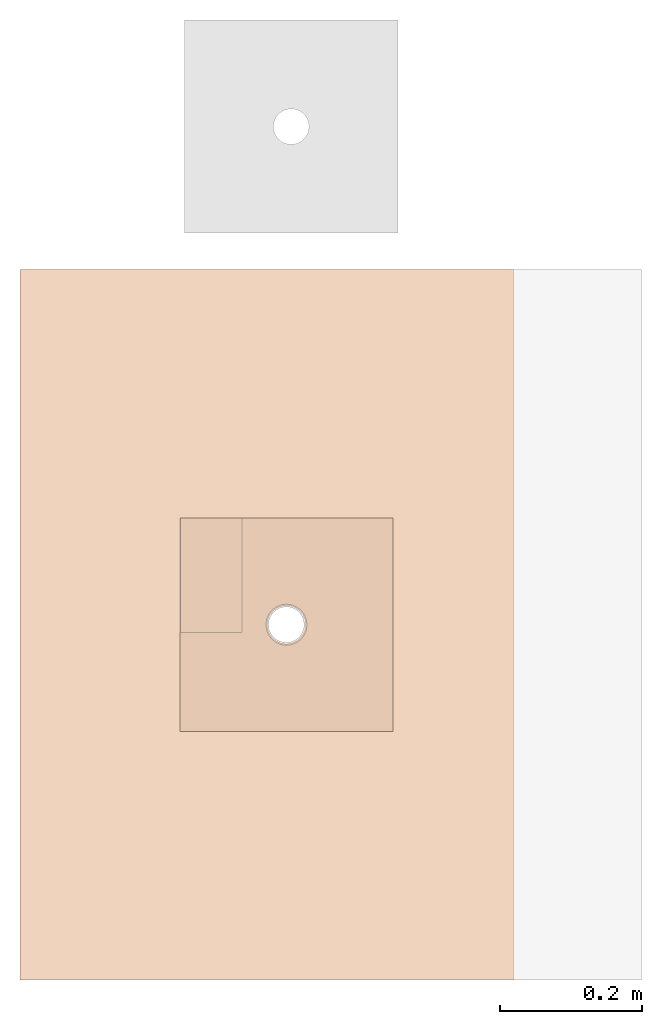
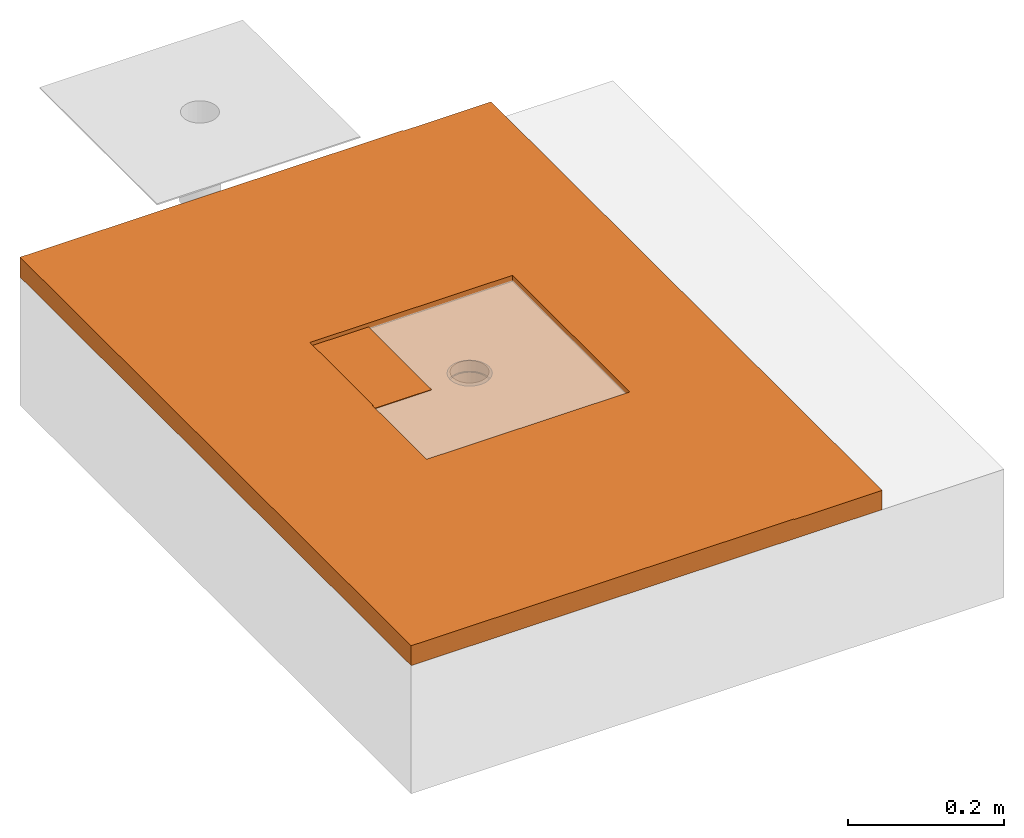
# One storey, part 3 of 3: 1 proxy.
"""IFC2X3 building model written with IfcOpenShell, lengths in metres."""

import ifcopenshell
import ifcopenshell.guid

model = None  # the IFC model being written
_history = None  # IfcOwnerHistory: only IFC2X3 demands one
_inside = {}  # id of a spatial element -> (the spatial element, [elements in it])
_under = {}  # id of a project, library or spatial element -> (it, [spatial elements below it])
_declared = {}  # id of a project -> (the project, [libraries it declares])
_typed = {}  # id of a type object -> (the type object, [elements of that type])
_made_of = {}  # id of a material, layer set ... -> (it, [elements and type objects made of it])


def new_model(schema):
    """Start an empty IFC model of exactly this schema.

    Asked for "IFC4X3", IfcOpenShell would pick the latest addendum, in which some entities
    have other attributes; the version numbers below select the first issue.
    IFC2X3 requires an IfcOwnerHistory on every rooted entity: one is made here for all.
    """
    global model, _history
    if schema == "IFC4X3":
        model = ifcopenshell.file(schema_version=(4, 3, 0, 0))
    else:
        model = ifcopenshell.file(schema=schema)
    _inside.clear()
    _under.clear()
    _declared.clear()
    _typed.clear()
    _made_of.clear()
    _history = None
    if model.schema == "IFC2X3":
        org = make("IfcOrganization", Name="unknown")
        user = make(
            "IfcPersonAndOrganization",
            ThePerson=make("IfcPerson", FamilyName="unknown"),
            TheOrganization=org,
        )
        app = make(
            "IfcApplication",
            ApplicationDeveloper=org,
            Version="unknown",
            ApplicationFullName="unknown",
            ApplicationIdentifier="unknown",
        )
        _history = make(
            "IfcOwnerHistory",
            OwningUser=user,
            OwningApplication=app,
            ChangeAction="ADDED",
            CreationDate=0,
        )
    return model


def make(cls, **values):
    """One entity of the class cls with the attributes given. An attribute that is None is left unset."""
    return model.create_entity(
        cls, **{name: value for name, value in values.items() if value is not None}
    )


def entity(cls, *values):
    """Any entity or typed value of the class cls, its attributes in the order of the schema. None: left unset."""
    e = model.create_entity(cls)
    for i, value in enumerate(values):
        if value is not None:
            e[i] = value
    return e


def rooted(cls, **values):
    """An entity with a GlobalId (a new one), such as an element, a storey or a relation."""
    return make(cls, GlobalId=ifcopenshell.guid.new(), OwnerHistory=_history, **values)


def si_unit(unit_type, name, prefix=None):
    """IfcSIUnit, for example si_unit("LENGTHUNIT", "METRE", prefix="MILLI")."""
    return make("IfcSIUnit", UnitType=unit_type, Prefix=prefix, Name=name)


def converted_unit(unit_type, name, factor, base, dimensions=None, offset=None):
    """IfcConversionBasedUnit, such as the inch: factor (a typed value) times the base unit."""
    return make(
        "IfcConversionBasedUnit"
        if offset is None
        else "IfcConversionBasedUnitWithOffset",
        ConversionOffset=offset,
        Dimensions=None
        if dimensions is None
        else entity("IfcDimensionalExponents", *dimensions),
        UnitType=unit_type,
        Name=name,
        ConversionFactor=make(
            "IfcMeasureWithUnit", ValueComponent=factor, UnitComponent=base
        ),
    )


def derived_unit(unit_type, elements):
    """IfcDerivedUnit: a product of units, each with its exponent."""
    return make(
        "IfcDerivedUnit",
        Elements=[
            make("IfcDerivedUnitElement", Unit=unit, Exponent=power)
            for unit, power in elements
        ],
        UnitType=unit_type,
    )


def assignment(units):
    """IfcUnitAssignment: the units of a project."""
    return None if units is None else make("IfcUnitAssignment", Units=units)


def point(xyz):
    """IfcCartesianPoint."""
    return None if xyz is None else make("IfcCartesianPoint", Coordinates=xyz)


def direction(xyz):
    """IfcDirection."""
    return None if xyz is None else make("IfcDirection", DirectionRatios=xyz)


def frame(location, z_axis=None, x_axis=None):
    """IfcAxis2Placement3D, a coordinate frame: its origin and axes. An axis left out is left unset."""
    return make(
        "IfcAxis2Placement3D",
        Location=point(location),
        Axis=direction(z_axis),
        RefDirection=direction(x_axis),
    )


def origin():
    """The frame at (0, 0, 0) with its axes left unset."""
    return frame((0.0, 0.0, 0.0))


def place(relative_to, where):
    """IfcLocalPlacement: puts the frame where relative to a parent placement (None: the world)."""
    return make(
        "IfcLocalPlacement", PlacementRelTo=relative_to, RelativePlacement=where
    )


def context(
    kind, dimensions, precision=None, world=None, true_north=None, identifier=None
):
    """IfcGeometricRepresentationContext, for example the 3D "Model" context."""
    return make(
        "IfcGeometricRepresentationContext",
        ContextIdentifier=identifier,
        ContextType=kind,
        CoordinateSpaceDimension=dimensions,
        Precision=precision,
        WorldCoordinateSystem=world,
        TrueNorth=true_north,
    )


def subcontext(parent, identifier, kind, view, scale=None):
    """IfcGeometricRepresentationSubContext, for example "Body" below "Model"."""
    return make(
        "IfcGeometricRepresentationSubContext",
        ContextIdentifier=identifier,
        ContextType=kind,
        ParentContext=parent,
        TargetScale=scale,
        TargetView=view,
    )


def project(units=None, contexts=None):
    """IfcProject with its units and contexts."""
    return rooted(
        "IfcProject",
        Name="project",
        RepresentationContexts=contexts,
        UnitsInContext=assignment(units),
    )


def spatial(cls, under=None, at=None, **own):
    """A site, building, storey or space (cls), placed at a placement, below another one or the project."""
    s = rooted(cls, ObjectPlacement=at, **own)
    if under is not None:
        _under.setdefault(under.id(), (under, []))[1].append(s)
    return s


def faces_of(points, faces, orient=None, outer=None):
    """IfcFace entities. A face is a list of loops; a loop is a list of indices into points, from 0.

    orient and outer hold one flag for each loop. By default every Orientation is true, the
    first loop of a face is its IfcFaceOuterBound and the others are IfcFaceBound.
    """
    made = []
    for i, loops in enumerate(faces):
        bounds = []
        for j, loop in enumerate(loops):
            is_outer = j == 0 if outer is None else outer[i][j]
            bounds.append(
                make(
                    "IfcFaceOuterBound" if is_outer else "IfcFaceBound",
                    Bound=make("IfcPolyLoop", Polygon=[points[k] for k in loop]),
                    Orientation=True if orient is None else orient[i][j],
                )
            )
        made.append(make("IfcFace", Bounds=bounds))
    return made


def faceted_brep(points, faces, orient=None, outer=None, voids=None):
    """IfcFacetedBrep: a solid bounded by flat faces; with voids (closed shells), ...WithVoids."""
    shared = [point(p) for p in points]
    hull = make("IfcClosedShell", CfsFaces=faces_of(shared, faces, orient, outer))
    if voids is None:
        return make("IfcFacetedBrep", Outer=hull)
    return make(
        "IfcFacetedBrepWithVoids",
        Outer=hull,
        Voids=[
            make(cls, CfsFaces=faces_of(shared, fs, o, b)) for cls, fs, o, b in voids
        ],
    )


def shape(context_of_items, identifier, shape_type, items):
    """IfcShapeRepresentation: the items that make up one representation, for example the "Body"."""
    return make(
        "IfcShapeRepresentation",
        ContextOfItems=context_of_items,
        RepresentationIdentifier=identifier,
        RepresentationType=shape_type,
        Items=items,
    )


def source(mapping_origin, context_of_items, identifier, shape_type, items):
    """IfcRepresentationMap: a shape defined once, which mapped items show again and again."""
    return make(
        "IfcRepresentationMap",
        MappingOrigin=mapping_origin,
        MappedRepresentation=shape(context_of_items, identifier, shape_type, items),
    )


def transform(
    local_origin,
    x_axis=None,
    y_axis=None,
    z_axis=None,
    scale=None,
    scale2=None,
    scale3=None,
    uniform=True,
):
    """IfcCartesianTransformationOperator3D, or its non-uniform kind. x_axis, y_axis, z_axis: its Axis1, 2, 3."""
    if uniform:
        return make(
            "IfcCartesianTransformationOperator3D",
            Axis1=direction(x_axis),
            Axis2=direction(y_axis),
            LocalOrigin=point(local_origin),
            Scale=scale,
            Axis3=direction(z_axis),
        )
    return make(
        "IfcCartesianTransformationOperator3DnonUniform",
        Axis1=direction(x_axis),
        Axis2=direction(y_axis),
        LocalOrigin=point(local_origin),
        Scale=scale,
        Axis3=direction(z_axis),
        Scale2=scale2,
        Scale3=scale3,
    )


def mapped(mapping_source, mapping_target):
    """IfcMappedItem: shows the shape of a source again, moved by a transform."""
    return make(
        "IfcMappedItem", MappingSource=mapping_source, MappingTarget=mapping_target
    )


def material(Name=None, Category=None):
    """IfcMaterial."""
    return make("IfcMaterial", Name=Name, Category=Category)


def material_list(materials):
    """IfcMaterialList."""
    return make("IfcMaterialList", Materials=materials)


def made_of(thing, what):
    """Note that an element or type object is made of a material, layer set ...; save() writes the relation."""
    if what is not None:
        _made_of.setdefault(what.id(), (what, []))[1].append(thing)
    return thing


def type_object(cls, material=None, **own):
    """A type object (cls), such as IfcWallType, which elements share."""
    return made_of(rooted(cls, **own), material)


def type_shapes(of_type, sources):
    """Give a type object the sources (RepresentationMaps) that its elements show as mapped items."""
    of_type.RepresentationMaps = sources


def element(
    cls,
    number,
    at=None,
    inside=None,
    cuts=None,
    type_object=None,
    material=None,
    context=None,
    identifier="Body",
    shape_type=None,
    held_by="IfcProductDefinitionShape",
    body=None,
    shapes=None,
    **own,
):
    """One element of the class cls, such as IfcWall. Its Tag is "e" and its number.

    at: its placement. inside: the storey or other place that contains it. cuts: it is an
    opening in that element (IfcRelVoidsElement). A single representation is given by context,
    identifier, shape_type and body (its items); several are given by shapes. held_by: the class
    of the entity that holds the representations. save() writes the other relations.
    """
    e = rooted(cls, Tag="e%d" % number, ObjectPlacement=at, **own)
    if body is not None:
        shapes = [shape(context, identifier, shape_type, body)]
    if shapes is not None:
        e.Representation = make(held_by, Representations=shapes)
    if inside is not None:
        _inside.setdefault(inside.id(), (inside, []))[1].append(e)
    if cuts is not None:
        rooted(
            "IfcRelVoidsElement", RelatingBuildingElement=cuts, RelatedOpeningElement=e
        )
    if type_object is not None:
        _typed.setdefault(type_object.id(), (type_object, []))[1].append(e)
    return made_of(e, material)


def aggregate(whole, parts):
    """IfcRelAggregates: a whole, such as a stair, and the parts it consists of."""
    return rooted("IfcRelAggregates", RelatingObject=whole, RelatedObjects=parts)


def save(model, path):
    """Write the relations noted so far, then the file.

    IfcRelAggregates (storeys below a building ...), IfcRelContainedInSpatialStructure (elements
    in a storey), IfcRelDefinesByType, IfcRelAssociatesMaterial and IfcRelDeclares: one each for
    every whole, place, type object, material and project.
    """
    for whole, parts in _under.values():
        aggregate(whole, parts)
    for where, things in _inside.values():
        rooted(
            "IfcRelContainedInSpatialStructure",
            RelatedElements=things,
            RelatingStructure=where,
        )
    for kind, things in _typed.values():
        rooted("IfcRelDefinesByType", RelatedObjects=things, RelatingType=kind)
    for what, things in _made_of.values():
        rooted("IfcRelAssociatesMaterial", RelatedObjects=things, RelatingMaterial=what)
    for by, libraries in _declared.values():
        rooted("IfcRelDeclares", RelatingContext=by, RelatedDefinitions=libraries)
    model.write(path)


model = new_model("IFC2X3")

# Units and contexts
model_context = context("Model", 3, precision=1e-05, world=origin(), true_north=direction((6.123031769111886e-17, 1.0)))
body_context = subcontext(model_context, "Body", "Model", "MODEL_VIEW")
ifc_project = project(units=[si_unit("LENGTHUNIT", "METRE"), si_unit("AREAUNIT", "SQUARE_METRE"), si_unit("VOLUMEUNIT", "CUBIC_METRE"), converted_unit("PLANEANGLEUNIT", "DEGREE", entity("IfcRatioMeasure", 0.017453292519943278), si_unit("PLANEANGLEUNIT", "RADIAN"), dimensions=[0, 0, 0, 0, 0, 0, 0]), si_unit("MASSUNIT", "GRAM", prefix="KILO"), derived_unit("MASSDENSITYUNIT", [(si_unit("MASSUNIT", "GRAM", prefix="KILO"), 1), (si_unit("LENGTHUNIT", "METRE"), -3)]), derived_unit("IONCONCENTRATIONUNIT", [(si_unit("MASSUNIT", "GRAM", prefix="KILO"), 1), (si_unit("LENGTHUNIT", "METRE"), -3)]), derived_unit("MOMENTOFINERTIAUNIT", [(si_unit("LENGTHUNIT", "METRE"), 4)]), si_unit("TIMEUNIT", "SECOND"), si_unit("FREQUENCYUNIT", "HERTZ"), si_unit("THERMODYNAMICTEMPERATUREUNIT", "DEGREE_CELSIUS"), derived_unit("THERMALTRANSMITTANCEUNIT", [(si_unit("MASSUNIT", "GRAM", prefix="KILO"), 1), (si_unit("THERMODYNAMICTEMPERATUREUNIT", "KELVIN"), -1), (si_unit("TIMEUNIT", "SECOND"), -3)]), derived_unit("THERMALCONDUCTANCEUNIT", [(si_unit("MASSUNIT", "GRAM", prefix="KILO"), 1), (si_unit("THERMODYNAMICTEMPERATUREUNIT", "KELVIN"), -1), (si_unit("TIMEUNIT", "SECOND"), -3), (si_unit("LENGTHUNIT", "METRE"), 1)]), derived_unit("VOLUMETRICFLOWRATEUNIT", [(si_unit("LENGTHUNIT", "METRE"), 3), (si_unit("TIMEUNIT", "SECOND"), -1)]), derived_unit("MASSFLOWRATEUNIT", [(si_unit("MASSUNIT", "GRAM", prefix="KILO"), 1), (si_unit("TIMEUNIT", "SECOND"), -1)]), derived_unit("ROTATIONALFREQUENCYUNIT", [(si_unit("TIMEUNIT", "SECOND"), -1)]), si_unit("ELECTRICCURRENTUNIT", "AMPERE"), si_unit("ELECTRICVOLTAGEUNIT", "VOLT"), si_unit("POWERUNIT", "WATT"), si_unit("FORCEUNIT", "NEWTON", prefix="KILO"), si_unit("ILLUMINANCEUNIT", "LUX"), si_unit("LUMINOUSFLUXUNIT", "LUMEN"), si_unit("LUMINOUSINTENSITYUNIT", "CANDELA"), derived_unit("USERDEFINED", [(si_unit("MASSUNIT", "GRAM", prefix="KILO"), -1), (si_unit("LENGTHUNIT", "METRE"), -2), (si_unit("TIMEUNIT", "SECOND"), 3), (si_unit("LUMINOUSFLUXUNIT", "LUMEN"), 1)]), derived_unit("USERDEFINED", [(si_unit("MASSUNIT", "GRAM", prefix="KILO"), 1), (si_unit("TIMEUNIT", "SECOND"), -3), (si_unit("LENGTHUNIT", "METRE"), 3), (si_unit("ELECTRICCURRENTUNIT", "AMPERE"), -2)]), derived_unit("SOUNDPOWERUNIT", [(si_unit("MASSUNIT", "GRAM", prefix="KILO"), 1), (si_unit("TIMEUNIT", "SECOND"), -3), (si_unit("LENGTHUNIT", "METRE"), 2)]), derived_unit("SOUNDPRESSUREUNIT", [(si_unit("MASSUNIT", "GRAM", prefix="KILO"), 1), (si_unit("LENGTHUNIT", "METRE"), -1), (si_unit("TIMEUNIT", "SECOND"), -2)]), derived_unit("LINEARVELOCITYUNIT", [(si_unit("LENGTHUNIT", "METRE"), 1), (si_unit("TIMEUNIT", "SECOND"), -1)]), si_unit("PRESSUREUNIT", "PASCAL"), derived_unit("USERDEFINED", [(si_unit("MASSUNIT", "GRAM", prefix="KILO"), 1), (si_unit("LENGTHUNIT", "METRE"), -2), (si_unit("TIMEUNIT", "SECOND"), -2)]), derived_unit("LINEARFORCEUNIT", [(si_unit("MASSUNIT", "GRAM", prefix="KILO"), 1), (si_unit("TIMEUNIT", "SECOND"), -2)]), derived_unit("PLANARFORCEUNIT", [(si_unit("MASSUNIT", "GRAM", prefix="KILO"), 1), (si_unit("LENGTHUNIT", "METRE"), -1), (si_unit("TIMEUNIT", "SECOND"), -2)]), derived_unit("SPECIFICHEATCAPACITYUNIT", [(si_unit("THERMODYNAMICTEMPERATUREUNIT", "KELVIN"), -1), (si_unit("LENGTHUNIT", "METRE"), 2), (si_unit("TIMEUNIT", "SECOND"), -2)]), derived_unit("HEATINGVALUEUNIT", [(si_unit("LENGTHUNIT", "METRE"), 2), (si_unit("TIMEUNIT", "SECOND"), -2)]), derived_unit("VAPORPERMEABILITYUNIT", [(si_unit("LENGTHUNIT", "METRE"), -1), (si_unit("TIMEUNIT", "SECOND"), 1)]), derived_unit("DYNAMICVISCOSITYUNIT", [(si_unit("MASSUNIT", "GRAM", prefix="KILO"), 1), (si_unit("TIMEUNIT", "SECOND"), -1), (si_unit("LENGTHUNIT", "METRE"), -1)]), derived_unit("THERMALEXPANSIONCOEFFICIENTUNIT", [(si_unit("THERMODYNAMICTEMPERATUREUNIT", "KELVIN"), -1)]), derived_unit("MODULUSOFELASTICITYUNIT", [(si_unit("MASSUNIT", "GRAM", prefix="KILO"), 1), (si_unit("LENGTHUNIT", "METRE"), -1), (si_unit("TIMEUNIT", "SECOND"), -2)]), derived_unit("ISOTHERMALMOISTURECAPACITYUNIT", [(si_unit("LENGTHUNIT", "METRE"), 3), (si_unit("MASSUNIT", "GRAM", prefix="KILO"), -1)]), derived_unit("MOISTUREDIFFUSIVITYUNIT", [(si_unit("TIMEUNIT", "SECOND"), -1), (si_unit("LENGTHUNIT", "METRE"), 2)])], contexts=[model_context])

# Site, building, storey
site_placement = place(None, origin())
site = spatial("IfcSite", under=ifc_project, at=site_placement, Name="Default", CompositionType="ELEMENT")
building_placement = place(site_placement, origin())
building = spatial("IfcBuilding", under=site, at=building_placement, CompositionType="ELEMENT")
storey_placement = place(building_placement, frame((0.0, 0.0, -0.0025237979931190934)))
storey = spatial("IfcBuildingStorey", under=building, at=storey_placement, Name="ARQ Térreo", CompositionType="ELEMENT", Elevation=-0.0025237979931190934)

# Proxy
ifc_material_1 = material(Name="#Impermeabilização")
ifc_material_2 = material(Name="Plástico")
ifc_material_3 = material(Name="#argamassa")
ifc_material_list = material_list([ifc_material_1, ifc_material_2, ifc_material_3])
building_element_proxy_type = type_object("IfcBuildingElementProxyType", Name="IMPER:IMPER", PredefinedType="NOTDEFINED", material=ifc_material_list)
shared_shape = source(origin(), body_context, "Body", "Brep", [
    faceted_brep([(0.2258540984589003, 0.48897795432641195, 0.3694349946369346), (0.22485409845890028, 0.48897795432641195, 0.3694349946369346), (0.22485409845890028, 0.48897795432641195, 0.3624128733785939), (0.31235992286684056, 0.48897795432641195, 0.3624128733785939), (0.31235992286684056, 0.48897795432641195, 0.36341287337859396), (0.2258540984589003, 0.48897795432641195, 0.36341287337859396), (0.2258540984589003, 0.6500658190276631, 0.3694349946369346), (0.2258540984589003, 0.6500658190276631, 0.36341287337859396), (0.31235992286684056, 0.6500658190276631, 0.36341287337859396), (0.31235992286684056, 0.6500658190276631, 0.3624128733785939), (0.22485409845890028, 0.6500658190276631, 0.3624128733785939), (0.22485409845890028, 0.6500658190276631, 0.3694349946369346)], [[[0, 1, 2, 3, 4, 5]], [[6, 7, 8, 9, 10, 11]], [[1, 0, 6, 11]], [[2, 1, 11, 10]], [[3, 2, 10, 9]], [[4, 3, 9, 8]], [[5, 4, 8, 7]], [[0, 5, 7, 6]]]),
    faceted_brep([(0.389499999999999, 0.4748852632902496, 0.34300510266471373), (0.39550609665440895, 0.4794939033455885, 0.34300510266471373), (0.38849999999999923, 0.47661731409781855, 0.34300510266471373), (0.38198811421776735, 0.4739200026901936, 0.34300510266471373), (0.38250575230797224, 0.4719881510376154, 0.34300510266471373), (0.3940918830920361, 0.4809081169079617, 0.34300510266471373), (0.4001147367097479, 0.4854999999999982, 0.34300510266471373), (0.39838268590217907, 0.4864999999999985, 0.34300510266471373), (0.40107999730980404, 0.49301188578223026, 0.34300510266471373), (0.40301184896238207, 0.49249424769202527, 0.34300510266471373), (0.4019999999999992, 0.4999999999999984, 0.34300510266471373), (0.40399999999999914, 0.4999999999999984, 0.34300510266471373), (0.4010799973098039, 0.5069881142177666, 0.34300510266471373), (0.40301184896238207, 0.5075057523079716, 0.34300510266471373), (0.3983826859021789, 0.5134999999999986, 0.34300510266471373), (0.4001147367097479, 0.5144999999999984, 0.34300510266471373), (0.3940918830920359, 0.5190918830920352, 0.34300510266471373), (0.3955060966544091, 0.5205060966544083, 0.34300510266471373), (0.388499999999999, 0.5233826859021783, 0.34300510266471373), (0.3894999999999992, 0.5251147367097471, 0.34300510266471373), (0.38198811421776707, 0.5260799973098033, 0.34300510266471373), (0.38250575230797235, 0.5280118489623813, 0.34300510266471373), (0.37499999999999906, 0.5269999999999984, 0.34300510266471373), (0.3749999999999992, 0.5289999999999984, 0.34300510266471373), (0.36801188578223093, 0.5260799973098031, 0.34300510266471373), (0.3674942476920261, 0.5280118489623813, 0.34300510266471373), (0.36149999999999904, 0.5233826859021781, 0.34300510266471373), (0.36049999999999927, 0.5251147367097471, 0.34300510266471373), (0.35590811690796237, 0.5190918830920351, 0.34300510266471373), (0.35449390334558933, 0.5205060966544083, 0.34300510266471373), (0.3516173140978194, 0.5134999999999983, 0.34300510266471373), (0.34988526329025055, 0.5144999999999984, 0.34300510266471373), (0.3469881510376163, 0.5075057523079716, 0.34300510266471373), (0.34892000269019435, 0.5069881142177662, 0.34300510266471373), (0.3459999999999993, 0.4999999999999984, 0.34300510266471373), (0.34799999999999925, 0.49999999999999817, 0.34300510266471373), (0.3469881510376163, 0.49249424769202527, 0.34300510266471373), (0.3489200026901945, 0.49301188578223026, 0.34300510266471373), (0.34988526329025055, 0.4854999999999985, 0.34300510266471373), (0.3516173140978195, 0.4864999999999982, 0.34300510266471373), (0.35449390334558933, 0.4794939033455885, 0.34300510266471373), (0.35590811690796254, 0.4809081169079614, 0.34300510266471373), (0.36049999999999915, 0.4748852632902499, 0.34300510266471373), (0.3614999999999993, 0.47661731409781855, 0.34300510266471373), (0.3674942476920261, 0.4719881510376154, 0.34300510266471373), (0.3680118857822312, 0.4739200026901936, 0.34300510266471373), (0.37499999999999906, 0.47099999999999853, 0.34300510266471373), (0.37499999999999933, 0.4729999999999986, 0.34300510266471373), (0.3894999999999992, 0.5251147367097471, 0.0), (0.3955060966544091, 0.5205060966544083, 0.0), (0.388499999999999, 0.5233826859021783, 0.0), (0.38198811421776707, 0.5260799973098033, 0.0), (0.38250575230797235, 0.5280118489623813, 0.0), (0.3940918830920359, 0.5190918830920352, 0.0), (0.4001147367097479, 0.5144999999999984, 0.0), (0.3983826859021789, 0.5134999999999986, 0.0), (0.4010799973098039, 0.5069881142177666, 0.0), (0.40301184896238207, 0.5075057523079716, 0.0), (0.4019999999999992, 0.49999999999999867, 0.0), (0.40399999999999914, 0.49999999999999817, 0.0), (0.40107999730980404, 0.49301188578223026, 0.0), (0.40301184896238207, 0.49249424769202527, 0.0), (0.39838268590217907, 0.4864999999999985, 0.0), (0.4001147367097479, 0.4854999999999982, 0.0), (0.3940918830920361, 0.4809081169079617, 0.0), (0.39550609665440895, 0.4794939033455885, 0.0), (0.38849999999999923, 0.47661731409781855, 0.0), (0.389499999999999, 0.4748852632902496, 0.0), (0.38198811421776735, 0.4739200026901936, 0.0), (0.38250575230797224, 0.4719881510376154, 0.0), (0.37499999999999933, 0.4729999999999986, 0.0), (0.37499999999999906, 0.47099999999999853, 0.0), (0.3680118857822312, 0.4739200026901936, 0.0), (0.3674942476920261, 0.4719881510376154, 0.0), (0.3614999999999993, 0.47661731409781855, 0.0), (0.36049999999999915, 0.4748852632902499, 0.0), (0.35590811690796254, 0.4809081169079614, 0.0), (0.35449390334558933, 0.4794939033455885, 0.0), (0.3516173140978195, 0.4864999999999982, 0.0), (0.34988526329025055, 0.4854999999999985, 0.0), (0.3469881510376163, 0.49249424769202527, 0.0), (0.3489200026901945, 0.49301188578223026, 0.0), (0.3459999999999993, 0.4999999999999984, 0.0), (0.34799999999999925, 0.49999999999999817, 0.0), (0.3469881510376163, 0.5075057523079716, 0.0), (0.34892000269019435, 0.5069881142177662, 0.0), (0.34988526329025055, 0.5144999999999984, 0.0), (0.3516173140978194, 0.5134999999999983, 0.0), (0.35449390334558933, 0.5205060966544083, 0.0), (0.35590811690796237, 0.5190918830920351, 0.0), (0.36049999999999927, 0.5251147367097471, 0.0), (0.36149999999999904, 0.5233826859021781, 0.0), (0.3674942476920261, 0.5280118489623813, 0.0), (0.36801188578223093, 0.5260799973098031, 0.0), (0.3749999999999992, 0.5289999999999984, 0.0), (0.37499999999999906, 0.5269999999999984, 0.0)], [[[0, 1, 2]], [[0, 2, 3]], [[3, 4, 0]], [[2, 1, 5]], [[6, 5, 1]], [[5, 6, 7]], [[7, 6, 8]], [[9, 8, 6]], [[9, 10, 8]], [[10, 9, 11]], [[12, 10, 11]], [[11, 13, 12]], [[12, 13, 14]], [[15, 14, 13]], [[14, 15, 16]], [[16, 15, 17]], [[18, 16, 17]], [[17, 19, 18]], [[18, 19, 20]], [[21, 20, 19]], [[20, 21, 22]], [[22, 21, 23]], [[22, 23, 24]], [[24, 23, 25]], [[24, 25, 26]], [[27, 26, 25]], [[27, 28, 26]], [[28, 27, 29]], [[29, 30, 28]], [[31, 30, 29]], [[30, 31, 32]], [[32, 33, 30]], [[34, 33, 32]], [[34, 35, 33]], [[36, 35, 34]], [[36, 37, 35]], [[37, 36, 38]], [[38, 39, 37]], [[39, 38, 40]], [[39, 40, 41]], [[40, 42, 41]], [[41, 42, 43]], [[43, 42, 44]], [[44, 45, 43]], [[46, 45, 44]], [[4, 47, 46]], [[46, 47, 45]], [[4, 3, 47]], [[48, 49, 50]], [[48, 50, 51]], [[51, 52, 48]], [[50, 49, 53]], [[54, 53, 49]], [[53, 54, 55]], [[55, 54, 56]], [[57, 56, 54]], [[57, 58, 56]], [[58, 57, 59]], [[60, 58, 59]], [[59, 61, 60]], [[60, 61, 62]], [[63, 62, 61]], [[62, 63, 64]], [[64, 63, 65]], [[66, 64, 65]], [[65, 67, 66]], [[66, 67, 68]], [[69, 68, 67]], [[68, 69, 70]], [[70, 69, 71]], [[70, 71, 72]], [[72, 71, 73]], [[72, 73, 74]], [[75, 74, 73]], [[75, 76, 74]], [[76, 75, 77]], [[77, 78, 76]], [[79, 78, 77]], [[78, 79, 80]], [[80, 81, 78]], [[82, 81, 80]], [[82, 83, 81]], [[84, 83, 82]], [[84, 85, 83]], [[85, 84, 86]], [[86, 87, 85]], [[87, 86, 88]], [[87, 88, 89]], [[88, 90, 89]], [[89, 90, 91]], [[91, 90, 92]], [[92, 93, 91]], [[94, 93, 92]], [[52, 95, 94]], [[94, 95, 93]], [[52, 51, 95]], [[36, 80, 79, 38]], [[77, 40, 38, 79]], [[42, 75, 73, 44]], [[77, 75, 42, 40]], [[44, 73, 71, 46]], [[80, 36, 34, 82]], [[4, 69, 67, 0]], [[65, 1, 0, 67]], [[6, 63, 61, 9]], [[65, 63, 6, 1]], [[9, 61, 59, 11]], [[69, 4, 46, 71]], [[49, 17, 15, 54]], [[19, 48, 52, 21]], [[17, 49, 48, 19]], [[21, 52, 94, 23]], [[11, 59, 57, 13]], [[57, 54, 15, 13]], [[25, 92, 90, 27]], [[88, 29, 27, 90]], [[31, 86, 84, 32]], [[88, 86, 31, 29]], [[32, 84, 82, 34]], [[92, 25, 23, 94]], [[30, 33, 85, 87]], [[30, 87, 89, 28]], [[24, 26, 91, 93]], [[89, 91, 26, 28]], [[22, 24, 93, 95]], [[35, 83, 85, 33]], [[18, 20, 51, 50]], [[18, 50, 53, 16]], [[12, 14, 55, 56]], [[53, 55, 14, 16]], [[10, 12, 56, 58]], [[95, 51, 20, 22]], [[7, 62, 64, 5]], [[3, 2, 66, 68]], [[2, 5, 64, 66]], [[47, 3, 68, 70]], [[60, 8, 10, 58]], [[60, 62, 7, 8]], [[43, 45, 72, 74]], [[43, 74, 76, 41]], [[37, 39, 78, 81]], [[76, 78, 39, 41]], [[35, 37, 81, 83]], [[70, 72, 45, 47]]]),
    faceted_brep([(0.0, 1.0, 0.3684093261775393), (0.6952748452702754, 1.0, 0.3684093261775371), (0.6952748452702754, 1.0, 0.3384093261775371), (0.0, 1.0, 0.3384093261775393), (0.0, 0.0, 0.3384093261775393), (0.6952748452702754, 0.0, 0.3384093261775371), (0.6952748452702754, 0.0, 0.3684093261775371), (0.0, 0.0, 0.3684093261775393), (0.22485409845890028, 0.6500658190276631, 0.36840932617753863), (0.22485409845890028, 0.3500658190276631, 0.36840932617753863), (0.5248540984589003, 0.3500658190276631, 0.3684093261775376), (0.5248540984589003, 0.6500658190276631, 0.3684093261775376), (0.38250575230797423, 0.5280118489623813, 0.3384093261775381), (0.3750000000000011, 0.5289999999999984, 0.3384093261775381), (0.38950000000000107, 0.5251147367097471, 0.33840932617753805), (0.395506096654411, 0.5205060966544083, 0.33840932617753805), (0.4001147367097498, 0.5144999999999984, 0.33840932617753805), (0.403011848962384, 0.5075057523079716, 0.33840932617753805), (0.404000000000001, 0.4999999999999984, 0.338409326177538), (0.4030118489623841, 0.49249424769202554, 0.33840932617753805), (0.4001147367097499, 0.4854999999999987, 0.33840932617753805), (0.3955060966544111, 0.4794939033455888, 0.33840932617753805), (0.38950000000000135, 0.4748852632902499, 0.33840932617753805), (0.3825057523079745, 0.47198815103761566, 0.3384093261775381), (0.3750000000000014, 0.47099999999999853, 0.3384093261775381), (0.3460000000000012, 0.49999999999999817, 0.3384093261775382), (0.36749424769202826, 0.4719881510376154, 0.3384093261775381), (0.36050000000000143, 0.4748852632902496, 0.3384093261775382), (0.3544939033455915, 0.4794939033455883, 0.3384093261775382), (0.3498852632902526, 0.4854999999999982, 0.3384093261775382), (0.3469881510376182, 0.49249424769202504, 0.3384093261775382), (0.3469881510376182, 0.5075057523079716, 0.3384093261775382), (0.367494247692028, 0.5280118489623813, 0.3384093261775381), (0.36050000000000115, 0.5251147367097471, 0.3384093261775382), (0.3544939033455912, 0.5205060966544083, 0.3384093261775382), (0.34988526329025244, 0.5144999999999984, 0.3384093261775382), (0.40399999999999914, 0.4999999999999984, 0.36033930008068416), (0.40301184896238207, 0.5075057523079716, 0.36033930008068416), (0.4001147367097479, 0.5144999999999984, 0.36033930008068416), (0.3955060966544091, 0.5205060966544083, 0.36033930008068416), (0.3894999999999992, 0.5251147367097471, 0.36033930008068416), (0.38250575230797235, 0.5280118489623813, 0.36033930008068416), (0.3749999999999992, 0.5289999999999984, 0.36033930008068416), (0.3674942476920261, 0.5280118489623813, 0.36033930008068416), (0.36049999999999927, 0.5251147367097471, 0.36033930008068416), (0.35449390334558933, 0.5205060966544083, 0.36033930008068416), (0.34988526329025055, 0.5144999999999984, 0.36033930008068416), (0.3469881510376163, 0.5075057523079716, 0.36033930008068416), (0.3459999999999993, 0.4999999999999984, 0.36033930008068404), (0.3469881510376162, 0.49249424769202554, 0.36033930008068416), (0.34988526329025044, 0.4854999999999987, 0.36033930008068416), (0.3544939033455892, 0.4794939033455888, 0.36033930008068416), (0.360499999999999, 0.4748852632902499, 0.36033930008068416), (0.3674942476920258, 0.47198815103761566, 0.36033930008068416), (0.37499999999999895, 0.47099999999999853, 0.36033930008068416), (0.38250575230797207, 0.4719881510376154, 0.36033930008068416), (0.3894999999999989, 0.4748852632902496, 0.36033930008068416), (0.39550609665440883, 0.4794939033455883, 0.36033930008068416), (0.4001147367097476, 0.48549999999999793, 0.36033930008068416), (0.40301184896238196, 0.49249424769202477, 0.36033930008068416), (0.5248540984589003, 0.6500658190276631, 0.36033930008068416), (0.22485409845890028, 0.6500658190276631, 0.36033930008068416), (0.22485409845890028, 0.3500658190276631, 0.36033930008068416), (0.5248540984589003, 0.3500658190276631, 0.36033930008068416)], [[[0, 1, 2, 3]], [[4, 5, 6, 7]], [[0, 8, 1]], [[8, 0, 9]], [[7, 9, 0]], [[9, 7, 6]], [[10, 6, 1]], [[6, 10, 9]], [[11, 1, 8]], [[1, 11, 10]], [[2, 1, 6, 5]], [[2, 12, 13]], [[12, 2, 14]], [[2, 13, 3]], [[15, 14, 2]], [[16, 15, 2]], [[17, 16, 2]], [[2, 18, 17]], [[18, 2, 5]], [[19, 18, 5]], [[20, 19, 5]], [[5, 21, 20]], [[21, 5, 22]], [[23, 22, 5]], [[5, 24, 23]], [[24, 5, 4]], [[3, 25, 4]], [[26, 24, 4]], [[4, 27, 26]], [[27, 4, 28]], [[29, 28, 4]], [[30, 29, 4]], [[30, 4, 25]], [[31, 25, 3]], [[32, 3, 13]], [[3, 32, 33]], [[3, 33, 34]], [[34, 35, 3]], [[35, 31, 3]], [[0, 3, 4, 7]], [[18, 36, 37, 17]], [[17, 37, 38, 16]], [[14, 15, 39, 40]], [[39, 15, 16, 38]], [[12, 14, 40, 41]], [[12, 41, 42, 13]], [[13, 42, 43, 32]], [[32, 43, 44, 33]], [[34, 45, 46, 35]], [[33, 44, 45, 34]], [[35, 46, 47, 31]], [[25, 31, 47, 48]], [[25, 48, 49, 30]], [[30, 49, 50, 29]], [[27, 28, 51, 52]], [[51, 28, 29, 50]], [[26, 27, 52, 53]], [[26, 53, 54, 24]], [[23, 55, 56, 22]], [[22, 56, 57, 21]], [[19, 20, 58, 59]], [[58, 20, 21, 57]], [[18, 19, 59, 36]], [[24, 54, 55, 23]], [[60, 11, 8, 61]], [[61, 8, 9, 62]], [[62, 9, 10, 63]], [[63, 10, 11, 60]], [[47, 46, 61]], [[48, 47, 61]], [[45, 61, 46]], [[61, 45, 44]], [[61, 44, 43]], [[61, 43, 42]], [[42, 60, 61]], [[60, 42, 41]], [[60, 41, 40]], [[60, 40, 39]], [[39, 38, 60]], [[37, 60, 38]], [[60, 37, 36]], [[36, 63, 60]], [[63, 36, 59]], [[63, 59, 58]], [[58, 57, 63]], [[56, 63, 57]], [[63, 56, 55]], [[63, 55, 54]], [[62, 63, 54]], [[54, 53, 62]], [[62, 53, 52]], [[62, 52, 51]], [[62, 51, 50]], [[50, 49, 62]], [[49, 48, 62]], [[61, 62, 48]]]),
    faceted_brep([(0.5648540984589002, 1.0, 0.36943499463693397), (0.5648540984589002, 1.0, 0.36840932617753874), (0.0, 1.0, 0.36840932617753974), (0.0, 1.0, 0.36943499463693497), (0.5648540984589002, 0.0, 0.36943499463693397), (0.0, 0.0, 0.36943499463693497), (0.0, 0.0, 0.36840932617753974), (0.5648540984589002, 0.0, 0.36840932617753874), (0.22485409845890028, 0.6500658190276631, 0.3694349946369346), (0.5248540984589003, 0.6500658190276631, 0.369434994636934), (0.5248540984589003, 0.3500658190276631, 0.369434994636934), (0.22485409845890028, 0.3500658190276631, 0.3694349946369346), (0.5248540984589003, 0.6500658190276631, 0.3684093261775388), (0.22485409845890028, 0.6500658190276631, 0.36840932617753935), (0.22485409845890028, 0.3500658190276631, 0.36840932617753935), (0.5248540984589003, 0.3500658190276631, 0.3684093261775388)], [[[0, 1, 2, 3]], [[4, 5, 6, 7]], [[0, 3, 5, 4], [8, 9, 10, 11]], [[1, 0, 4, 7]], [[2, 1, 7, 6], [12, 13, 14, 15]], [[3, 2, 6, 5]], [[12, 9, 8, 13]], [[13, 8, 11, 14]], [[14, 11, 10, 15]], [[9, 12, 15, 10]]]),
])
type_shapes(building_element_proxy_type, [shared_shape])
proxy_placement = place(storey_placement, frame((0.5478103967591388, -1.7380570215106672, -0.3384093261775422)))
element("IfcBuildingElementProxy", 1, at=proxy_placement, inside=storey, type_object=building_element_proxy_type, material=ifc_material_list, Name="IMPER:IMPER:IMPER : IMPER:IMPER", ObjectType="IMPER:IMPER:IMPER : IMPER:IMPER", context=body_context, shape_type="MappedRepresentation", body=[
    mapped(shared_shape, transform((0.0, 0.0, 0.0), scale=1.0)),
])

save(model, "model.ifc")
